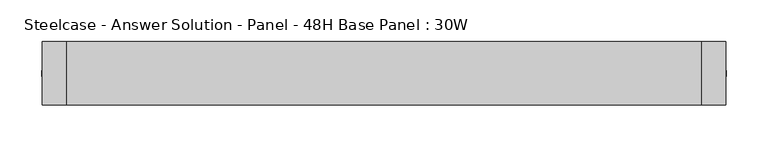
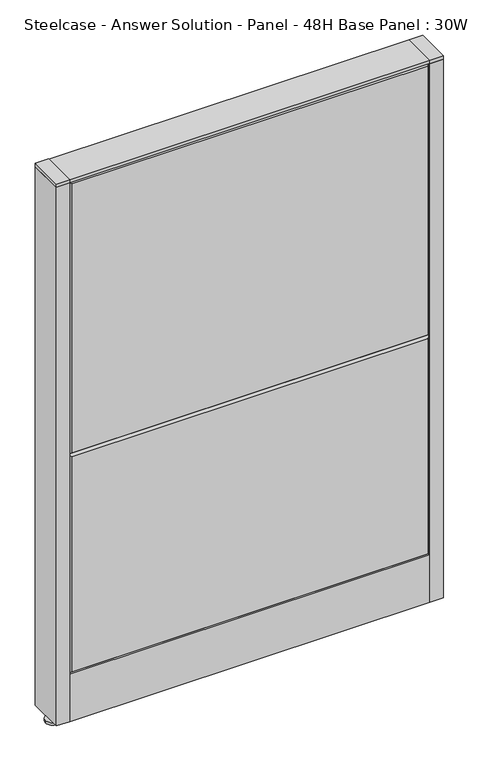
"""IFC4 building model written with IfcOpenShell, lengths in millimetres: furniture geometry, Steelcase - Answer Solution - Panel - 48H Base Panel : 30W."""

from ifc_helpers import new_model, si_unit, point, frame, frame_2d, origin, place, context, project, spatial, polyline, circle_curve, trimmed, segment, composite_curve, outline, extrude, faceted_brep, source, transform, mapped, element, save


def steelcase_answer_solution_panel_48h_base_panel_30w_5478dd08(model_context):
    return source(origin(), model_context, "Body", "SolidModel", [
        extrude(outline(composite_curve([segment(trimmed(circle_curve(frame_2d((395.224, 0.0320214)), 5.08), [point((400.304, 0.0320214))], [point((390.144, 0.0320214))], False, "CARTESIAN"), True, "CONTINUOUS"), segment(trimmed(circle_curve(frame_2d((395.224, 0.0320214)), 5.08), [point((390.144, 0.0320214))], [point((400.304, 0.0320214))], False, "CARTESIAN"), True, "CONTINUOUS")], self_intersect=False)), frame((0.0, 0.0, 5.0799671), z_axis=(0.0, 0.0, 1.0), x_axis=(1.0, 0.0, 0.0)), (0.0, 0.0, 1.0), 10.414),
        extrude(outline(composite_curve([segment(trimmed(circle_curve(frame_2d((395.224, 0.0320214)), 15.24), [point((410.464, 0.0320214))], [point((379.984, 0.0320214))], False, "CARTESIAN"), True, "CONTINUOUS"), segment(trimmed(circle_curve(frame_2d((395.224, 0.0320214)), 15.24), [point((379.984, 0.0320214))], [point((410.464, 0.0320214))], False, "CARTESIAN"), True, "CONTINUOUS")], self_intersect=False)), frame((0.0, 0.0, -3.29e-05), z_axis=(0.0, 0.0, 1.0), x_axis=(1.0, 0.0, 0.0)), (0.0, 0.0, 1.0), 5.08),
        extrude(outline(polyline([(409.575, 38.1320408), (409.575, -38.0679592), (381.0, -38.0679592), (381.0, 38.1320408), (409.575, 38.1320408)])), frame((0.0, 0.0, 1218.2348), z_axis=(0.0, 0.0, 1.0), x_axis=(1.0, 0.0, 0.0)), (0.0, 0.0, 1.0), 7.3151671),
        extrude(outline(polyline([(409.575, 38.1320408), (409.575, -38.0679592), (381.0, -38.0679592), (381.0, 38.1320408), (409.575, 38.1320408)])), frame((0.0, 0.0, 15.4939671), z_axis=(0.0, 0.0, 1.0), x_axis=(1.0, 0.0, 0.0)), (0.0, 0.0, 1.0), 1202.7408329),
        extrude(outline(composite_curve([segment(trimmed(circle_curve(frame_2d((-395.224, 0.0320214)), 5.08), [point((-400.304, 0.0320214))], [point((-390.144, 0.0320214))], False, "CARTESIAN"), True, "CONTINUOUS"), segment(trimmed(circle_curve(frame_2d((-395.224, 0.0320214)), 5.08), [point((-390.144, 0.0320214))], [point((-400.304, 0.0320214))], False, "CARTESIAN"), True, "CONTINUOUS")], self_intersect=False)), frame((0.0, 0.0, 5.0799671), z_axis=(0.0, 0.0, 1.0), x_axis=(1.0, 0.0, 0.0)), (0.0, 0.0, 1.0), 10.414),
        extrude(outline(composite_curve([segment(trimmed(circle_curve(frame_2d((-395.224, 0.0320214)), 15.24), [point((-410.464, 0.0320214))], [point((-379.984, 0.0320214))], False, "CARTESIAN"), True, "CONTINUOUS"), segment(trimmed(circle_curve(frame_2d((-395.224, 0.0320214)), 15.24), [point((-379.984, 0.0320214))], [point((-410.464, 0.0320214))], False, "CARTESIAN"), True, "CONTINUOUS")], self_intersect=False)), frame((0.0, 0.0, -3.29e-05), z_axis=(0.0, 0.0, 1.0), x_axis=(1.0, 0.0, 0.0)), (0.0, 0.0, 1.0), 5.08),
        extrude(outline(polyline([(-409.575, 38.1320408), (-381.0, 38.1320408), (-381.0, -38.0679592), (-409.575, -38.0679592), (-409.575, 38.1320408)])), frame((0.0, 0.0, 1218.2348), z_axis=(0.0, 0.0, 1.0), x_axis=(1.0, 0.0, 0.0)), (0.0, 0.0, 1.0), 7.3151671),
        extrude(outline(polyline([(-409.575, 38.1320408), (-381.0, 38.1320408), (-381.0, -38.0679592), (-409.575, -38.0679592), (-409.575, 38.1320408)])), frame((0.0, 0.0, 15.4939671), z_axis=(0.0, 0.0, 1.0), x_axis=(1.0, 0.0, 0.0)), (0.0, 0.0, 1.0), 1202.7408329),
        faceted_brep([(-376.174, 38.1635011, 1214.374), (376.174, 38.1635011, 1214.374), (376.174, 38.1635011, 614.426), (-376.174, 38.1635011, 614.426), (-381.0, 33.3375011, 1219.2), (-381.0, 33.3375011, 609.6), (381.0, 33.3375011, 609.6), (381.0, 33.3375011, 1219.2)], [[[0, 1, 2, 3]], [[4, 5, 6, 7]], [[4, 7, 1, 0]], [[7, 6, 2, 1]], [[6, 5, 3, 2]], [[5, 4, 0, 3]]]),
        faceted_brep([(-376.174, 38.1635011, 604.774), (376.174, 38.1635011, 604.774), (376.174, 38.1635011, 125.476), (-376.174, 38.1635011, 125.476), (-381.0, 33.3375011, 609.6), (-381.0, 33.3375011, 120.65), (381.0, 33.3375011, 120.65), (381.0, 33.3375011, 609.6)], [[[0, 1, 2, 3]], [[4, 5, 6, 7]], [[4, 7, 1, 0]], [[7, 6, 2, 1]], [[6, 5, 3, 2]], [[5, 4, 0, 3]]]),
        faceted_brep([(376.174, -38.1635011, 1214.374), (-376.174, -38.1635011, 1214.374), (-376.174, -38.1635011, 614.426), (376.174, -38.1635011, 614.426), (381.0, -33.3375011, 1219.2), (381.0, -33.3375011, 609.6), (-381.0, -33.3375011, 609.6), (-381.0, -33.3375011, 1219.2)], [[[0, 1, 2, 3]], [[4, 5, 6, 7]], [[4, 7, 1, 0]], [[7, 6, 2, 1]], [[6, 5, 3, 2]], [[5, 4, 0, 3]]]),
        faceted_brep([(376.174, -38.1635011, 604.774), (-376.174, -38.1635011, 604.774), (-376.174, -38.1635011, 125.476), (376.174, -38.1635011, 125.476), (381.0, -33.3375011, 609.6), (381.0, -33.3375011, 120.65), (-381.0, -33.3375011, 120.65), (-381.0, -33.3375011, 609.6)], [[[0, 1, 2, 3]], [[4, 5, 6, 7]], [[4, 7, 1, 0]], [[7, 6, 2, 1]], [[6, 5, 3, 2]], [[5, 4, 0, 3]]]),
        extrude(outline(polyline([(381.0, 38.1000194), (381.0, -38.1000194), (-381.0, -38.1000194), (-381.0, 38.1000194), (381.0, 38.1000194)])), frame((0.0, 0.0, 1219.2), z_axis=(0.0, 0.0, 1.0), x_axis=(1.0, 0.0, 0.0)), (0.0, 0.0, 1.0), 6.35),
        extrude(outline(polyline([(25.4000011, 119.8575157), (25.4000011, 120.65), (38.1000194, 120.65), (38.1000194, 15.494), (37.3075215, 15.494), (37.3075215, 119.8575157), (25.4000011, 119.8575157)])), frame((-381.0, 0.0, 0.0), z_axis=(1.0, 0.0, 0.0), x_axis=(0.0, 1.0, 0.0)), (0.0, 0.0, 1.0), 762.0),
        extrude(outline(polyline([(-25.4000011, 119.8575157), (-37.3075215, 119.8575157), (-37.3075215, 15.494), (-38.1000194, 15.494), (-38.1000194, 120.65), (-25.4000011, 120.65), (-25.4000011, 119.8575157)])), frame((-381.0, 0.0, 0.0), z_axis=(1.0, 0.0, 0.0), x_axis=(0.0, 1.0, 0.0)), (0.0, 0.0, 1.0), 762.0),
    ])


if __name__ == "__main__":
    model = new_model("IFC4")
    model_context = context("Model", 3, world=origin())
    ifc_project = project(units=[si_unit("LENGTHUNIT", "METRE", prefix="MILLI")], contexts=[model_context])
    site = spatial("IfcSite", under=ifc_project)
    building = spatial("IfcBuilding", under=site)
    placement = place(None, origin())
    steelcase_answer_solution_panel_48h_base_panel_30w_shape = steelcase_answer_solution_panel_48h_base_panel_30w_5478dd08(model_context)
    element("IfcFurniture", 1, ObjectType="Steelcase - Answer Solution - Panel - 48H Base Panel : 30W", at=placement, inside=building, context=model_context, shape_type="MappedRepresentation", body=[
        mapped(steelcase_answer_solution_panel_48h_base_panel_30w_shape, transform((0.0, 0.0, 0.0), x_axis=(1.0, 0.0, 0.0), y_axis=(0.0, 1.0, 0.0), z_axis=(0.0, 0.0, 1.0))),
    ])
    save(model, "model.ifc")
